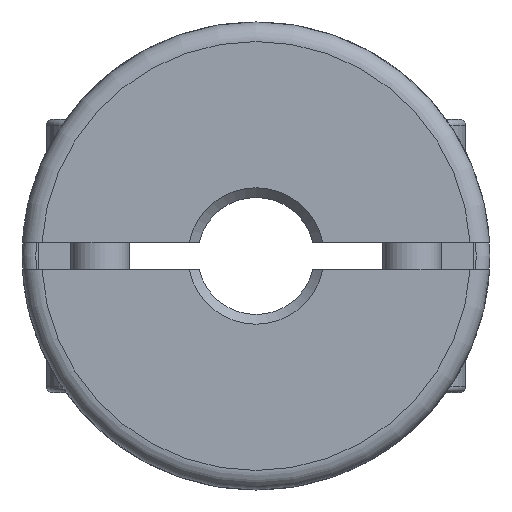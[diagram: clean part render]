
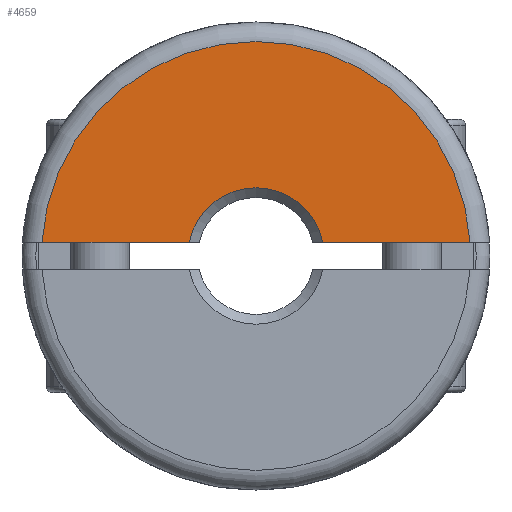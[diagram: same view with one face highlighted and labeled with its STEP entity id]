
A CAD part, left-side view. The second image highlights one B-rep face of the part: STEP entity #4659.
In plain terms, the highlighted planar face has unit normal (-1, 0, 0).
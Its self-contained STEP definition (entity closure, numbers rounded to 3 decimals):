
#114=LINE('',#7313,#274);
#127=LINE('',#7357,#287);
#274=VECTOR('',#5824,1000.);
#287=VECTOR('',#5855,1000.);
#1158=ORIENTED_EDGE('',*,*,#1661,.T.);
#1159=ORIENTED_EDGE('',*,*,#1569,.T.);
#1160=ORIENTED_EDGE('',*,*,#1641,.T.);
#1161=ORIENTED_EDGE('',*,*,#1577,.F.);
#1569=EDGE_CURVE('',#1932,#1930,#2176,.T.);
#1577=EDGE_CURVE('',#1939,#1937,#2180,.T.);
#1641=EDGE_CURVE('',#1930,#1937,#114,.T.);
#1661=EDGE_CURVE('',#1939,#1932,#127,.T.);
#1930=VERTEX_POINT('',#6918);
#1932=VERTEX_POINT('',#6921);
#1937=VERTEX_POINT('',#6968);
#1939=VERTEX_POINT('',#6975);
#2176=CIRCLE('',#4959,11.);
#2180=CIRCLE('',#4965,3.5);
#2505=EDGE_LOOP('',(#1158,#1159,#1160,#1161));
#2823=FACE_BOUND('',#2505,.T.);
#2968=PLANE('',#5048);
#4659=ADVANCED_FACE('',(#2823),#2968,.T.);
#4959=AXIS2_PLACEMENT_3D('',#6920,#5694,#5695);
#4965=AXIS2_PLACEMENT_3D('',#6976,#5706,#5707);
#5048=AXIS2_PLACEMENT_3D('',#7418,#5904,#5905);
#5694=DIRECTION('',(-1.,0.,0.));
#5695=DIRECTION('',(0.,0.,-1.));
#5706=DIRECTION('',(-1.,0.,0.));
#5707=DIRECTION('',(0.,0.,-1.));
#5824=DIRECTION('',(0.,-1.,0.));
#5855=DIRECTION('',(0.,-1.,0.));
#5904=DIRECTION('',(-1.,0.,0.));
#5905=DIRECTION('',(0.,0.,-1.));
#6918=CARTESIAN_POINT('',(-18.782,10.978,0.7));
#6920=CARTESIAN_POINT('',(-18.782,0.,0.));
#6921=CARTESIAN_POINT('',(-18.782,-10.978,0.7));
#6968=CARTESIAN_POINT('',(-18.782,3.429,0.7));
#6975=CARTESIAN_POINT('',(-18.782,-3.429,0.7));
#6976=CARTESIAN_POINT('',(-18.782,0.,0.));
#7313=CARTESIAN_POINT('',(-18.782,-12.,0.7));
#7357=CARTESIAN_POINT('',(-18.782,-12.,0.7));
#7418=CARTESIAN_POINT('',(-18.782,-12.,0.));
